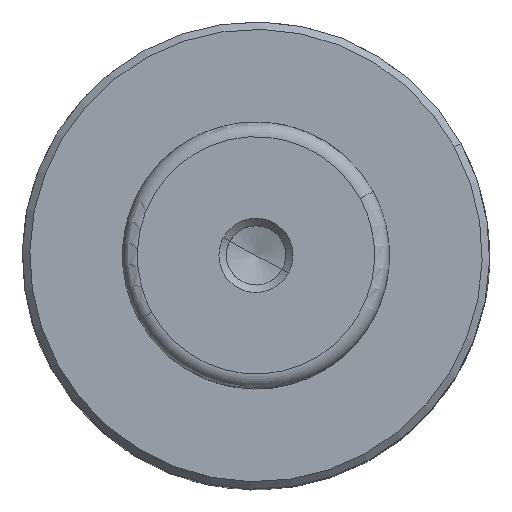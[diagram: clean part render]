
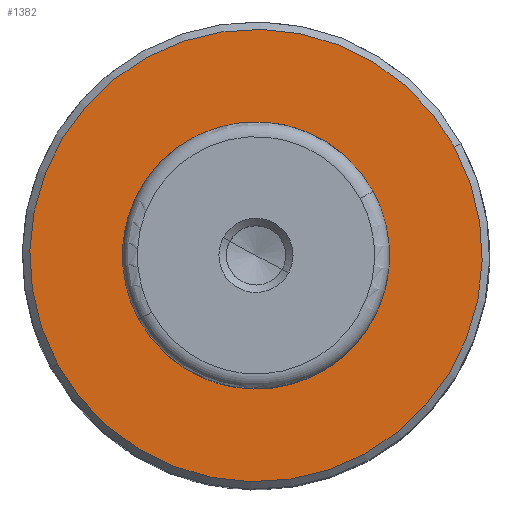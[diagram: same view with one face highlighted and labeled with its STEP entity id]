
A CAD part, top view. The second image highlights one B-rep face of the part: STEP entity #1382.
In plain terms, the highlighted planar face has unit normal (0, 0, 1).
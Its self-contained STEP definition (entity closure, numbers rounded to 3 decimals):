
#1337 = VERTEX_POINT('',#1338);
#1338 = CARTESIAN_POINT('',(26.766,14.622,69.));
#1344 = EDGE_CURVE('',#1337,#1345,#1347,.T.);
#1345 = VERTEX_POINT('',#1346);
#1346 = CARTESIAN_POINT('',(-26.766,-14.622,69.));
#1347 = CIRCLE('',#1348,30.5);
#1348 = AXIS2_PLACEMENT_3D('',#1349,#1350,#1351);
#1349 = CARTESIAN_POINT('',(0.,0.,69.));
#1350 = DIRECTION('',(0.,0.,-1.));
#1351 = DIRECTION('',(-1.,0.,0.));
#1369 = EDGE_CURVE('',#1345,#1337,#1370,.T.);
#1370 = CIRCLE('',#1371,30.5);
#1371 = AXIS2_PLACEMENT_3D('',#1372,#1373,#1374);
#1372 = CARTESIAN_POINT('',(0.,0.,69.));
#1373 = DIRECTION('',(0.,0.,-1.));
#1374 = DIRECTION('',(-1.,0.,0.));
#1382 = ADVANCED_FACE('',(#1383),#1387,.T.);
#1383 = FACE_BOUND('',#1384,.T.);
#1384 = EDGE_LOOP('',(#1385,#1386));
#1385 = ORIENTED_EDGE('',*,*,#1344,.F.);
#1386 = ORIENTED_EDGE('',*,*,#1369,.F.);
#1387 = PLANE('',#1388);
#1388 = AXIS2_PLACEMENT_3D('',#1389,#1390,#1391);
#1389 = CARTESIAN_POINT('',(30.5,0.,69.));
#1390 = DIRECTION('',(0.,0.,1.));
#1391 = DIRECTION('',(1.,0.,0.));
